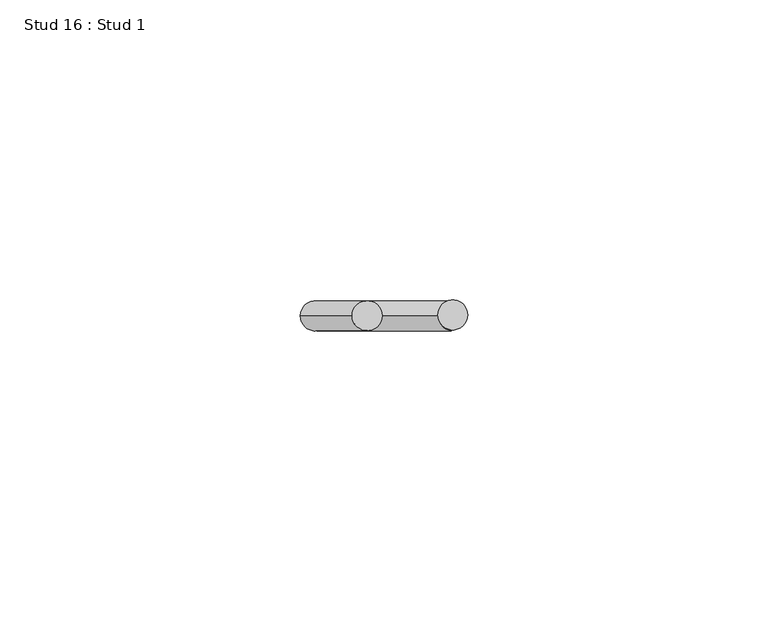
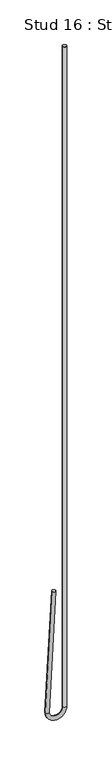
"""IFC4 building model written with IfcOpenShell, lengths in millimetres: proxy geometry, Stud 16 : Stud 1."""

from ifc_helpers import new_model, si_unit, point, frame, origin, place, context, project, spatial, circle_curve, ellipse_curve, trimmed, source, transform, mapped, element, save
from ifc_brep_helpers import plane_surface, cylinder_surface, revolved_surface, advanced_brep


def stud_16_stud_1_de291fa9(model_context):
    return source(origin(), model_context, "Body", "AdvancedBrep", [
        advanced_brep(
        [(-12209.2532788, 8353.5191481, 3640.800192), (-12204.2601311, 8353.5191481, 3640.5385122), (-12217.8939451, 8353.5191481, 3475.9264558), (-12212.9007975, 8353.5191481, 3475.664776), (-12194.9920812, 8353.5191481, 3475.7956159), (-12189.9920812, 8353.5191481, 3475.7956159), (-12189.9920812, 8353.5191481, 4390.1956159), (-12194.9920812, 8353.5191481, 4390.1956159)],
        [
            (0, 1, circle_curve(frame((-12206.7567049, 8353.5191481, 3640.6693521), z_axis=(0.05233595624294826, 0.0, 0.9986295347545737), x_axis=(0.9986295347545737, 0.0, -0.05233595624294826)), 2.5)),
            (1, 0, circle_curve(frame((-12206.7567049, 8353.5191481, 3640.6693521), z_axis=(0.05233595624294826, 0.0, 0.9986295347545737), x_axis=(0.9986295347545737, 0.0, -0.05233595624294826)), 2.5)),
            (0, 2),
            (2, 3, circle_curve(frame((-12215.3973713, 8353.5191481, 3475.7956159), z_axis=(0.05233595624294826, 0.0, 0.9986295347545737), x_axis=(0.9986295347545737, 0.0, -0.05233595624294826)), 2.5)),
            (3, 1),
            (3, 2, circle_curve(frame((-12215.3973713, 8353.5191481, 3475.7956159), z_axis=(0.05233595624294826, 0.0, 0.9986295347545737), x_axis=(0.9986295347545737, 0.0, -0.05233595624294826)), 2.5)),
            (4, 3, circle_curve(frame((-12203.9447263, 8353.5191481, 3475.7956159), z_axis=(0.0, 1.0, 0.0), x_axis=(-1.0, 0.0, 0.0)), 8.952645)),
            (2, 5, circle_curve(frame((-12203.9447263, 8353.5191481, 3475.7956159), z_axis=(0.0, -1.0, 0.0), x_axis=(-1.0, 0.0, 0.0)), 13.952645)),
            (5, 4, circle_curve(frame((-12192.4920812, 8353.5191481, 3475.7956159), z_axis=(0.0, 0.0, -1.0), x_axis=(-1.0, 0.0, 0.0)), 2.5)),
            (4, 5, circle_curve(frame((-12192.4920812, 8353.5191481, 3475.7956159), z_axis=(0.0, 0.0, -1.0), x_axis=(-1.0, 0.0, 0.0)), 2.5)),
            (6, 7, circle_curve(frame((-12192.4920812, 8353.5191481, 4390.1956159), z_axis=(0.0, 0.0, 1.0), x_axis=(-1.0, 0.0, 0.0)), 2.5)),
            (7, 6, circle_curve(frame((-12192.4920812, 8353.5191481, 4390.1956159), z_axis=(0.0, 0.0, 1.0), x_axis=(-1.0, 0.0, 0.0)), 2.5)),
            (5, 6),
            (7, 4),
        ],
        [
            plane_surface(frame((-12206.7567049, 8947.2441481, 3640.6693521), z_axis=(0.05233595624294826, 0.0, 0.9986295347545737), x_axis=(0.0, -1.0, 0.0))),
            cylinder_surface(frame((-12206.7567049, 8353.5191481, 3640.6693521), z_axis=(0.05233595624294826, 0.0, 0.9986295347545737), x_axis=(0.9986295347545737, 0.0, -0.05233595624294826)), 2.5),
            revolved_surface(trimmed(ellipse_curve(frame((-12215.3973713, 8353.5191481, 3475.7956159), z_axis=(0.0, 0.0, 1.0), x_axis=(1.0, 0.0, 0.0)), 2.5, 2.5), [point((-12217.8973713, 8353.5191481, 3475.7956159))], [point((-12212.8973713, 8353.5191481, 3475.7956159))], True, "CARTESIAN"), (-12203.9447263, 8947.2441481, 3475.7956159), (0.0, -1.0, 0.0)),
            revolved_surface(trimmed(ellipse_curve(frame((-12215.3973713, 8353.5191481, 3475.7956159), z_axis=(0.0, 0.0, 1.0), x_axis=(1.0, 0.0, 0.0)), 2.5, 2.5), [point((-12212.8973713, 8353.5191481, 3475.7956159))], [point((-12217.8973713, 8353.5191481, 3475.7956159))], True, "CARTESIAN"), (-12203.9447263, 8947.2441481, 3475.7956159), (0.0, -1.0, 0.0)),
            plane_surface(frame((-12192.4920812, 8947.2441481, 4390.1956159), z_axis=(0.0, 0.0, 1.0), x_axis=(0.0, -1.0, 0.0))),
            cylinder_surface(frame((-12192.4920812, 8353.5191481, 3475.7956159), z_axis=(0.0, 0.0, -1.0), x_axis=(-1.0, 0.0, 0.0)), 2.5),
        ],
        [
            (0, [[1, 2]]),
            (1, [[-1, 3, 4, 5]]),
            (1, [[-2, -5, 6, -3]]),
            (2, [[7, -4, 8, 9]]),
            (3, [[-8, -6, -7, 10]]),
            (4, [[11, 12]]),
            (5, [[-9, 13, -12, 14]]),
            (5, [[-10, -14, -11, -13]]),
        ],
    ),
    ])


if __name__ == "__main__":
    model = new_model("IFC4")
    model_context = context("Model", 3, world=origin())
    ifc_project = project(units=[si_unit("LENGTHUNIT", "METRE", prefix="MILLI")], contexts=[model_context])
    site = spatial("IfcSite", under=ifc_project)
    building = spatial("IfcBuilding", under=site)
    placement = place(None, origin())
    stud_16_stud_1_shape = stud_16_stud_1_de291fa9(model_context)
    element("IfcBuildingElementProxy", 1, Name="Stud 16 : Stud 1", ObjectType="Stud 16 : Stud 1", at=placement, inside=building, context=model_context, shape_type="MappedRepresentation", body=[
        mapped(stud_16_stud_1_shape, transform((0.0, 0.0, 0.0), x_axis=(1.0, 0.0, 0.0), y_axis=(0.0, 1.0, 0.0), z_axis=(0.0, 0.0, 1.0))),
    ])
    save(model, "model.ifc")
